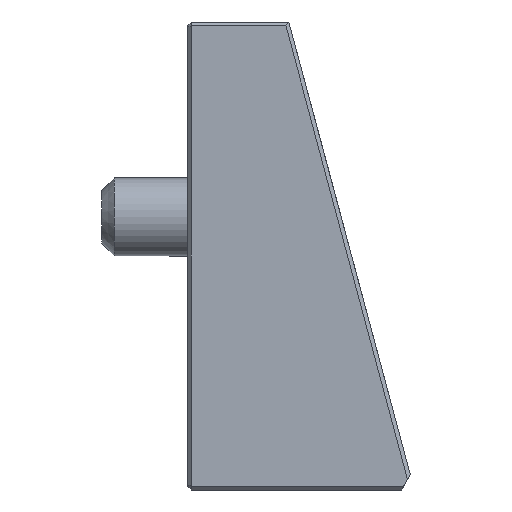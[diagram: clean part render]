
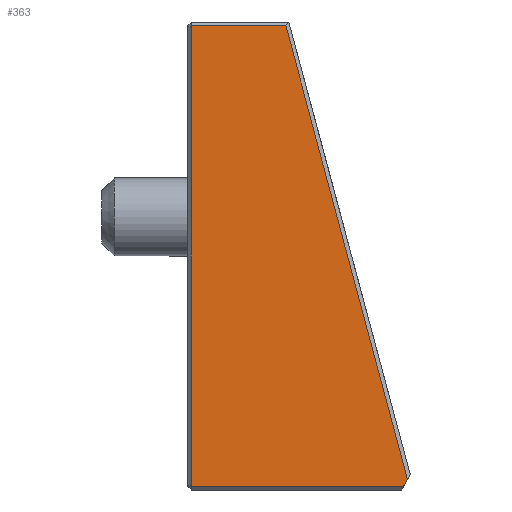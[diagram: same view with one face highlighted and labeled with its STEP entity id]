
A CAD part, left-side view. The second image highlights one B-rep face of the part: STEP entity #363.
In plain terms, the highlighted planar face has unit normal (-1, 0, 0).
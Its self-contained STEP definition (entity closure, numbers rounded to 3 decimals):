
#363=ADVANCED_FACE('',(#1090),#1092,.F.);
#1090=FACE_BOUND('',#1091,.T.);
#1091=EDGE_LOOP('',(#1434,#1435,#1436,#1437,#1438));
#1092=PLANE('',#1093);
#1093=AXIS2_PLACEMENT_3D('',#1094,#1095,#1096);
#1094=CARTESIAN_POINT('',(-65.,0.,0.));
#1095=DIRECTION('',(1.,0.,0.));
#1096=DIRECTION('',(0.,1.,0.));
#1434=ORIENTED_EDGE('',*,*,#1576,.F.);
#1435=ORIENTED_EDGE('',*,*,#1588,.F.);
#1436=ORIENTED_EDGE('',*,*,#1604,.F.);
#1437=ORIENTED_EDGE('',*,*,#1595,.F.);
#1438=ORIENTED_EDGE('',*,*,#1605,.F.);
#1576=EDGE_CURVE('',#1725,#1727,#1728,.F.);
#1588=EDGE_CURVE('',#1746,#1725,#1748,.T.);
#1595=EDGE_CURVE('',#1756,#1759,#1760,.T.);
#1604=EDGE_CURVE('',#1759,#1746,#1772,.T.);
#1605=EDGE_CURVE('',#1727,#1756,#1773,.T.);
#1725=VERTEX_POINT('',#2763);
#1727=VERTEX_POINT('',#2767);
#1728=LINE('',#2768,#2769);
#1746=VERTEX_POINT('',#2808);
#1748=LINE('',#2812,#2813);
#1756=VERTEX_POINT('',#2877);
#1759=VERTEX_POINT('',#2884);
#1760=LINE('',#2885,#2886);
#1772=LINE('',#2916,#2917);
#1773=LINE('',#2919,#2920);
#2763=CARTESIAN_POINT('',(-65.,-28.206,-33.681));
#2767=CARTESIAN_POINT('',(-65.,-27.733,-34.5));
#2768=CARTESIAN_POINT('',(-65.,-27.733,-34.5));
#2769=VECTOR('',#2770,1.);
#2770=DIRECTION('',(0.,-0.5,0.866));
#2808=CARTESIAN_POINT('',(-65.,-12.616,24.5));
#2812=CARTESIAN_POINT('',(-65.,-12.616,24.5));
#2813=VECTOR('',#2814,1.);
#2814=DIRECTION('',(0.,-0.259,-0.966));
#2877=CARTESIAN_POINT('',(-65.,-0.5,-34.5));
#2884=CARTESIAN_POINT('',(-65.,-0.5,24.5));
#2885=CARTESIAN_POINT('',(-65.,-0.5,-34.5));
#2886=VECTOR('',#2887,1.);
#2887=DIRECTION('',(0.,0.,1.));
#2916=CARTESIAN_POINT('',(-65.,-0.5,24.5));
#2917=VECTOR('',#2918,1.);
#2918=DIRECTION('',(0.,-1.,0.));
#2919=CARTESIAN_POINT('',(-65.,-27.733,-34.5));
#2920=VECTOR('',#2921,1.);
#2921=DIRECTION('',(0.,1.,0.));
